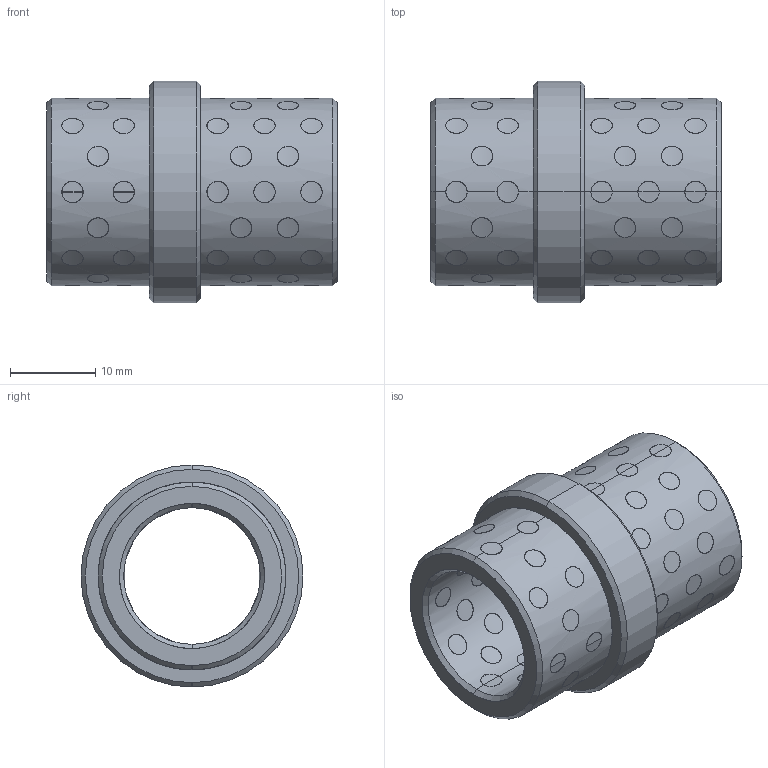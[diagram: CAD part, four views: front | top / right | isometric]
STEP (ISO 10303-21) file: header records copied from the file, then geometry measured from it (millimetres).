
FILE_DESCRIPTION(('CATIA V5 STEP Exchange'),'2;1');
FILE_NAME('C:\Users\Utente\Desktop\3D files G402\G4021622.stp','2020-04-22T08:41:55+00:00',('none'),('none'),'CATIA Version 5 Release 20 GA (IN-10)','CATIA V5 STEP AP203','none');
FILE_SCHEMA(('CONFIG_CONTROL_DESIGN'));
Length unit declared in the file: millimetre
Products named in the file (1): G4021622
Bounding box: 34 x 26 x 26 mm (x, y, z)
Surface area: 7688.3 mm2 (no closed solid volume)
Topology: 0 solids, 428 shells, 428 faces, 1872 edges, 1872 vertices
Faces by surface type: cylinder 412, revolution 12, plane 4
Entity records: 32965 total; most frequent: CARTESIAN_POINT 19996, ORIENTED_EDGE 1872, EDGE_CURVE 1872, VERTEX_POINT 1872, DIRECTION 1523, B_SPLINE_CURVE_WITH_KNOTS 1205, VECTOR 632, LINE 632
